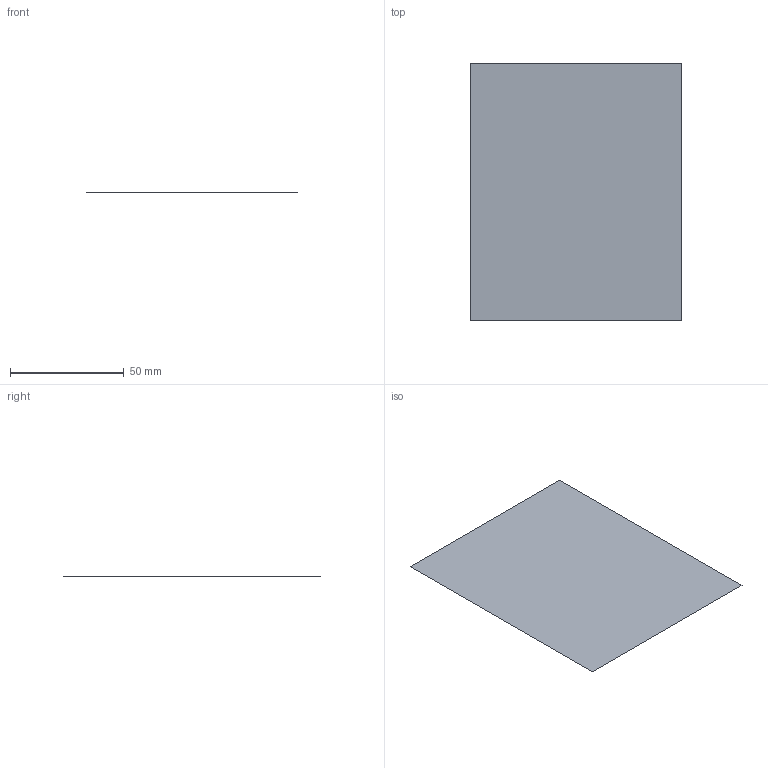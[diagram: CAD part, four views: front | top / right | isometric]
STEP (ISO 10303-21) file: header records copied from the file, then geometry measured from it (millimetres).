
FILE_DESCRIPTION(('CATIA V5 STEP Exchange'),'2;1');
FILE_NAME('C:\_Andres\UNIVERSIDAD\IQS\ASIGNATURAS\DAO\EXF\EXF-15161c\1original\Busquet_Ribera_Ej06-calculo_v3.stp','2016-03-04T20:57:41+00:00',('none'),('none'),'CATIA Version 5 Release 20 SP 1 (IN-10)','CATIA V5 STEP AP203','none');
FILE_SCHEMA(('CONFIG_CONTROL_DESIGN'));
Length unit declared in the file: millimetre
Products named in the file (1): Busquet_Ribera_Ej06-calculo_v3
Bounding box: 93 x 113 x 0 mm (x, y, z)
Surface area: 10509 mm2 (no closed solid volume)
Topology: 0 solids, 1 shells, 1 faces, 8 edges, 9 vertices
Faces by surface type: plane 1
Entity records: 130 total; most frequent: CARTESIAN_POINT 23, DIRECTION 12, VECTOR 8, LINE 8, COMPOSITE_CURVE_SEGMENT 4, ORIENTED_EDGE 4, CC_DESIGN_PERSON_AND_ORGANIZATION_ASSIGNMENT 4, PERSON_AND_ORGANIZATION_ROLE 4
